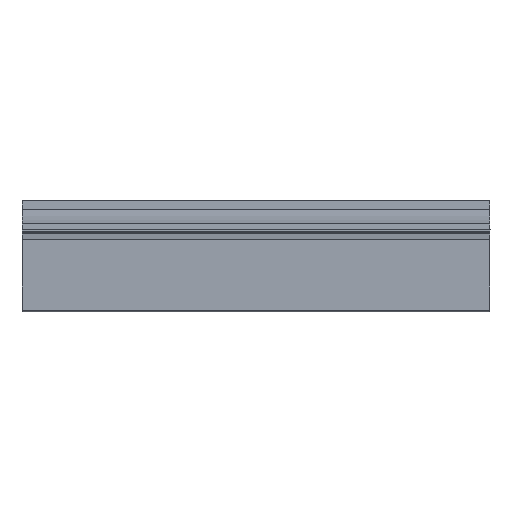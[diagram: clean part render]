
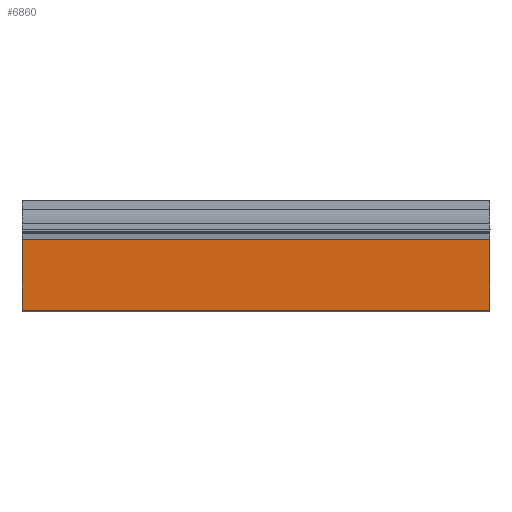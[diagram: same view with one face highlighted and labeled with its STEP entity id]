
A CAD part, top view. The second image highlights one B-rep face of the part: STEP entity #6860.
In plain terms, the highlighted free-form (B-spline) face has degree [1, 1] with [2, 2] control points.
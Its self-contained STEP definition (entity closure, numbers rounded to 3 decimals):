
#587 = B_SPLINE_SURFACE_WITH_KNOTS('',1,1,(
    (#588,#589)
    ,(#590,#591
    )),.UNSPECIFIED.,.F.,.F.,.F.,(2,2),(2,2),(-50.574,
    43.228),(-3.528,16.474),
  .PIECEWISE_BEZIER_KNOTS.);
#588 = CARTESIAN_POINT('',(500.,-118.801,-0.001));
#589 = CARTESIAN_POINT('',(500.,-118.801,20.001));
#590 = CARTESIAN_POINT('',(500.,-24.999,-0.001));
#591 = CARTESIAN_POINT('',(500.,-24.999,20.001));
#639 = B_SPLINE_SURFACE_WITH_KNOTS('',1,1,(
    (#640,#641)
    ,(#642,#643
    )),.UNSPECIFIED.,.F.,.F.,.F.,(2,2),(2,2),(-50.574,
    43.228),(-3.528,16.474),
  .PIECEWISE_BEZIER_KNOTS.);
#640 = CARTESIAN_POINT('',(0.,-24.999,-0.001));
#641 = CARTESIAN_POINT('',(0.,-24.999,20.001));
#642 = CARTESIAN_POINT('',(0.,-118.801,-0.001));
#643 = CARTESIAN_POINT('',(0.,-118.801,20.001));
#6709 = ( BOUNDED_SURFACE() B_SPLINE_SURFACE(1,2,(
    (#6710,#6711,#6712)
    ,(#6713,#6714,#6715
)),.UNSPECIFIED.,.F.,.F.,.F.) B_SPLINE_SURFACE_WITH_KNOTS((2,2),(3,3),(
    0.,333.333),(0.,1.538),
.PIECEWISE_BEZIER_KNOTS.) GEOMETRIC_REPRESENTATION_ITEM() 
RATIONAL_B_SPLINE_SURFACE((
    (1.,0.719,1.)
,(1.,0.719,1.))) REPRESENTATION_ITEM('') SURFACE() );
#6710 = CARTESIAN_POINT('',(500.,-117.35,1.647));
#6711 = CARTESIAN_POINT('',(500.,-118.8,1.598));
#6712 = CARTESIAN_POINT('',(500.,-118.8,0.147));
#6713 = CARTESIAN_POINT('',(0.,-117.35,
    1.647));
#6714 = CARTESIAN_POINT('',(0.,-118.8,
    1.598));
#6715 = CARTESIAN_POINT('',(0.,-118.8,
    0.147));
#6747 = VERTEX_POINT('',#6748);
#6748 = CARTESIAN_POINT('',(500.,-117.35,1.647));
#6791 = EDGE_CURVE('',#6747,#6792,#6794,.T.);
#6792 = VERTEX_POINT('',#6793);
#6793 = CARTESIAN_POINT('',(0.,-117.35,1.647));
#6794 = SURFACE_CURVE('',#6795,(#6798,#6804),.PCURVE_S1.);
#6795 = B_SPLINE_CURVE_WITH_KNOTS('',1,(#6796,#6797),.UNSPECIFIED.,.F.,
  .F.,(2,2),(0.,500.),.PIECEWISE_BEZIER_KNOTS.);
#6796 = CARTESIAN_POINT('',(500.,-117.35,1.647));
#6797 = CARTESIAN_POINT('',(0.,-117.35,1.647));
#6798 = PCURVE('',#6709,#6799);
#6799 = DEFINITIONAL_REPRESENTATION('',(#6800),#6803);
#6800 = B_SPLINE_CURVE_WITH_KNOTS('',1,(#6801,#6802),.UNSPECIFIED.,.F.,
  .F.,(2,2),(0.,500.),.PIECEWISE_BEZIER_KNOTS.);
#6801 = CARTESIAN_POINT('',(0.,0.));
#6802 = CARTESIAN_POINT('',(333.333,0.));
#6803 = ( GEOMETRIC_REPRESENTATION_CONTEXT(2) 
PARAMETRIC_REPRESENTATION_CONTEXT() REPRESENTATION_CONTEXT('2D SPACE',''
  ) );
#6804 = PCURVE('',#6805,#6810);
#6805 = B_SPLINE_SURFACE_WITH_KNOTS('',1,1,(
    (#6806,#6807)
    ,(#6808,#6809
    )),.UNSPECIFIED.,.F.,.F.,.F.,(2,2),(2,2),(-0.001,75.616),(
    -0.001,500.001),.PIECEWISE_BEZIER_KNOTS.);
#6806 = CARTESIAN_POINT('',(500.001,-117.351,1.647));
#6807 = CARTESIAN_POINT('',(-0.001,-117.351,
    1.647));
#6808 = CARTESIAN_POINT('',(500.001,-41.771,4.034));
#6809 = CARTESIAN_POINT('',(-0.001,-41.771,
    4.034));
#6810 = DEFINITIONAL_REPRESENTATION('',(#6811),#6815);
#6811 = LINE('',#6812,#6813);
#6812 = CARTESIAN_POINT('',(0.,0.));
#6813 = VECTOR('',#6814,1.);
#6814 = DIRECTION('',(0.,1.));
#6815 = ( GEOMETRIC_REPRESENTATION_CONTEXT(2) 
PARAMETRIC_REPRESENTATION_CONTEXT() REPRESENTATION_CONTEXT('2D SPACE',''
  ) );
#6860 = ADVANCED_FACE('',(#6861),#6805,.T.);
#6861 = FACE_BOUND('',#6862,.T.);
#6862 = EDGE_LOOP('',(#6863,#6885,#6912,#6932));
#6863 = ORIENTED_EDGE('',*,*,#6864,.F.);
#6864 = EDGE_CURVE('',#6865,#6747,#6867,.T.);
#6865 = VERTEX_POINT('',#6866);
#6866 = CARTESIAN_POINT('',(500.,-41.772,4.034));
#6867 = SURFACE_CURVE('',#6868,(#6871,#6878),.PCURVE_S1.);
#6868 = B_SPLINE_CURVE_WITH_KNOTS('',1,(#6869,#6870),.UNSPECIFIED.,.F.,
  .F.,(2,2),(0.,75.615),.PIECEWISE_BEZIER_KNOTS.);
#6869 = CARTESIAN_POINT('',(500.,-41.772,4.034));
#6870 = CARTESIAN_POINT('',(500.,-117.35,1.647));
#6871 = PCURVE('',#6805,#6872);
#6872 = DEFINITIONAL_REPRESENTATION('',(#6873),#6877);
#6873 = LINE('',#6874,#6875);
#6874 = CARTESIAN_POINT('',(75.615,0.));
#6875 = VECTOR('',#6876,1.);
#6876 = DIRECTION('',(-1.,0.));
#6877 = ( GEOMETRIC_REPRESENTATION_CONTEXT(2) 
PARAMETRIC_REPRESENTATION_CONTEXT() REPRESENTATION_CONTEXT('2D SPACE',''
  ) );
#6878 = PCURVE('',#587,#6879);
#6879 = DEFINITIONAL_REPRESENTATION('',(#6880),#6884);
#6880 = LINE('',#6881,#6882);
#6881 = CARTESIAN_POINT('',(26.455,0.507));
#6882 = VECTOR('',#6883,1.);
#6883 = DIRECTION('',(-1.,-0.032));
#6884 = ( GEOMETRIC_REPRESENTATION_CONTEXT(2) 
PARAMETRIC_REPRESENTATION_CONTEXT() REPRESENTATION_CONTEXT('2D SPACE',''
  ) );
#6885 = ORIENTED_EDGE('',*,*,#6886,.T.);
#6886 = EDGE_CURVE('',#6865,#6887,#6889,.T.);
#6887 = VERTEX_POINT('',#6888);
#6888 = CARTESIAN_POINT('',(0.,-41.772,4.034));
#6889 = SURFACE_CURVE('',#6890,(#6893,#6900),.PCURVE_S1.);
#6890 = B_SPLINE_CURVE_WITH_KNOTS('',1,(#6891,#6892),.UNSPECIFIED.,.F.,
  .F.,(2,2),(0.,500.),.PIECEWISE_BEZIER_KNOTS.);
#6891 = CARTESIAN_POINT('',(500.,-41.772,4.034));
#6892 = CARTESIAN_POINT('',(0.,-41.772,4.034));
#6893 = PCURVE('',#6805,#6894);
#6894 = DEFINITIONAL_REPRESENTATION('',(#6895),#6899);
#6895 = LINE('',#6896,#6897);
#6896 = CARTESIAN_POINT('',(75.615,0.));
#6897 = VECTOR('',#6898,1.);
#6898 = DIRECTION('',(0.,1.));
#6899 = ( GEOMETRIC_REPRESENTATION_CONTEXT(2) 
PARAMETRIC_REPRESENTATION_CONTEXT() REPRESENTATION_CONTEXT('2D SPACE',''
  ) );
#6900 = PCURVE('',#6901,#6906);
#6901 = B_SPLINE_SURFACE_WITH_KNOTS('',1,1,(
    (#6902,#6903)
    ,(#6904,#6905
    )),.UNSPECIFIED.,.F.,.F.,.F.,(2,2),(2,2),(-0.001,6.066),(
    -0.001,500.001),.PIECEWISE_BEZIER_KNOTS.);
#6902 = CARTESIAN_POINT('',(500.001,-41.773,4.034));
#6903 = CARTESIAN_POINT('',(-0.001,-41.773,
    4.034));
#6904 = CARTESIAN_POINT('',(500.001,-35.788,5.026));
#6905 = CARTESIAN_POINT('',(-0.001,-35.788,
    5.026));
#6906 = DEFINITIONAL_REPRESENTATION('',(#6907),#6911);
#6907 = LINE('',#6908,#6909);
#6908 = CARTESIAN_POINT('',(0.,0.));
#6909 = VECTOR('',#6910,1.);
#6910 = DIRECTION('',(0.,1.));
#6911 = ( GEOMETRIC_REPRESENTATION_CONTEXT(2) 
PARAMETRIC_REPRESENTATION_CONTEXT() REPRESENTATION_CONTEXT('2D SPACE',''
  ) );
#6912 = ORIENTED_EDGE('',*,*,#6913,.T.);
#6913 = EDGE_CURVE('',#6887,#6792,#6914,.T.);
#6914 = SURFACE_CURVE('',#6915,(#6918,#6925),.PCURVE_S1.);
#6915 = B_SPLINE_CURVE_WITH_KNOTS('',1,(#6916,#6917),.UNSPECIFIED.,.F.,
  .F.,(2,2),(0.,75.615),.PIECEWISE_BEZIER_KNOTS.);
#6916 = CARTESIAN_POINT('',(0.,-41.772,4.034));
#6917 = CARTESIAN_POINT('',(0.,-117.35,1.647));
#6918 = PCURVE('',#6805,#6919);
#6919 = DEFINITIONAL_REPRESENTATION('',(#6920),#6924);
#6920 = LINE('',#6921,#6922);
#6921 = CARTESIAN_POINT('',(75.615,500.));
#6922 = VECTOR('',#6923,1.);
#6923 = DIRECTION('',(-1.,0.));
#6924 = ( GEOMETRIC_REPRESENTATION_CONTEXT(2) 
PARAMETRIC_REPRESENTATION_CONTEXT() REPRESENTATION_CONTEXT('2D SPACE',''
  ) );
#6925 = PCURVE('',#639,#6926);
#6926 = DEFINITIONAL_REPRESENTATION('',(#6927),#6931);
#6927 = LINE('',#6928,#6929);
#6928 = CARTESIAN_POINT('',(-33.801,0.507));
#6929 = VECTOR('',#6930,1.);
#6930 = DIRECTION('',(1.,-0.032));
#6931 = ( GEOMETRIC_REPRESENTATION_CONTEXT(2) 
PARAMETRIC_REPRESENTATION_CONTEXT() REPRESENTATION_CONTEXT('2D SPACE',''
  ) );
#6932 = ORIENTED_EDGE('',*,*,#6791,.F.);
